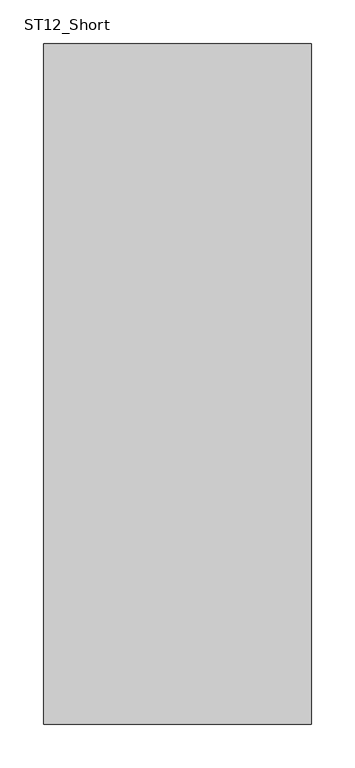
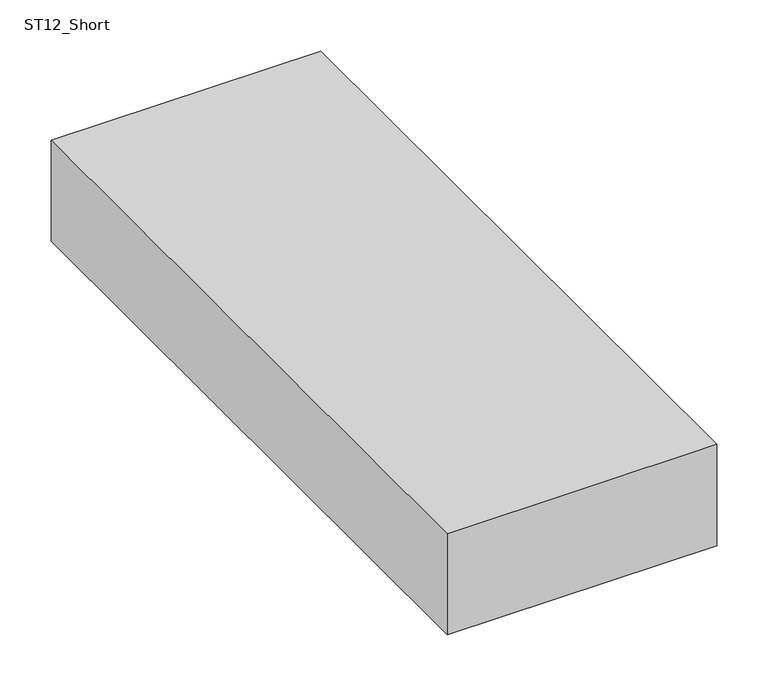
"""IFC4 building model written with IfcOpenShell, lengths in millimetres: furniture geometry, Memo_Candy_Table_Straight : ST12_Short."""

from ifc_helpers import new_model, si_unit, point, frame, frame_2d, origin, origin_with_axes, place, context, project, spatial, polyline, circle_curve, trimmed, segment, composite_curve, outline, extrude, source, transform, mapped, element, save


def st12_short_dc3a65f2(model_context):
    return source(origin(), model_context, "Body", "SweptSolid", [
        extrude(outline(composite_curve([segment(trimmed(circle_curve(frame_2d((95.25, -323.85)), 14.2875), [point((80.9625, -323.85))], [point((109.5375, -323.85))], False, "CARTESIAN"), True, "CONTINUOUS"), segment(trimmed(circle_curve(frame_2d((95.25, -323.85)), 14.2875), [point((109.5375, -323.85))], [point((80.9625, -323.85))], False, "CARTESIAN"), True, "CONTINUOUS")], self_intersect=False)), origin_with_axes(), (0.0, 0.0, 1.0), 10.2362),
        extrude(outline(composite_curve([segment(trimmed(circle_curve(frame_2d((95.25, 349.25)), 14.2875), [point((80.9625, 349.25))], [point((109.5375, 349.25))], False, "CARTESIAN"), True, "CONTINUOUS"), segment(trimmed(circle_curve(frame_2d((95.25, 349.25)), 14.2875), [point((109.5375, 349.25))], [point((80.9625, 349.25))], False, "CARTESIAN"), True, "CONTINUOUS")], self_intersect=False)), origin_with_axes(), (0.0, 0.0, 1.0), 10.2362),
        extrude(outline(composite_curve([segment(trimmed(circle_curve(frame_2d((-95.25, -323.85)), 14.2875), [point((-109.5375, -323.85))], [point((-80.9625, -323.85))], False, "CARTESIAN"), True, "CONTINUOUS"), segment(trimmed(circle_curve(frame_2d((-95.25, -323.85)), 14.2875), [point((-80.9625, -323.85))], [point((-109.5375, -323.85))], False, "CARTESIAN"), True, "CONTINUOUS")], self_intersect=False)), origin_with_axes(), (0.0, 0.0, 1.0), 10.2362),
        extrude(outline(composite_curve([segment(trimmed(circle_curve(frame_2d((-95.25, 349.25)), 14.2875), [point((-109.5375, 349.25))], [point((-80.9625, 349.25))], False, "CARTESIAN"), True, "CONTINUOUS"), segment(trimmed(circle_curve(frame_2d((-95.25, 349.25)), 14.2875), [point((-80.9625, 349.25))], [point((-109.5375, 349.25))], False, "CARTESIAN"), True, "CONTINUOUS")], self_intersect=False)), origin_with_axes(), (0.0, 0.0, 1.0), 10.2362),
        extrude(outline(polyline([(152.4, 400.05), (152.4, -374.65), (-152.4, -374.65), (-152.4, 400.05), (152.4, 400.05)])), frame((0.0, 0.0, 10.2362), z_axis=(0.0, 0.0, 1.0), x_axis=(1.0, 0.0, 0.0)), (0.0, 0.0, 1.0), 120.65),
    ])


if __name__ == "__main__":
    model = new_model("IFC4")
    model_context = context("Model", 3, world=origin())
    ifc_project = project(units=[si_unit("LENGTHUNIT", "METRE", prefix="MILLI")], contexts=[model_context])
    site = spatial("IfcSite", under=ifc_project)
    building = spatial("IfcBuilding", under=site)
    placement = place(None, origin())
    st12_short_shape = st12_short_dc3a65f2(model_context)
    element("IfcFurniture", 1, ObjectType="Memo_Candy_Table_Straight : ST12_Short", at=placement, inside=building, context=model_context, shape_type="MappedRepresentation", body=[
        mapped(st12_short_shape, transform((0.0, 0.0, 0.0), x_axis=(1.0, 0.0, 0.0), y_axis=(0.0, 1.0, 0.0), z_axis=(0.0, 0.0, 1.0))),
    ])
    save(model, "model.ifc")
